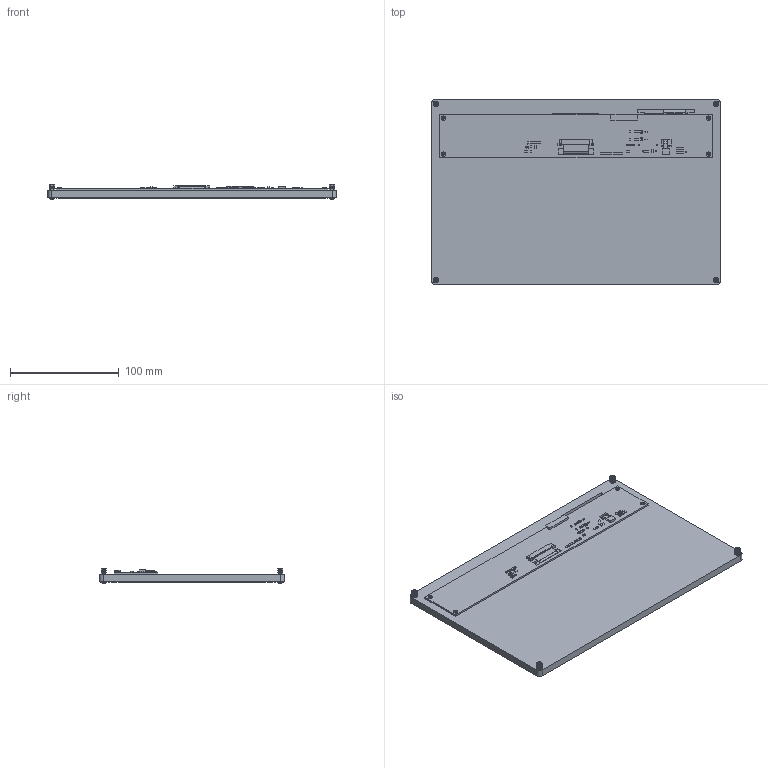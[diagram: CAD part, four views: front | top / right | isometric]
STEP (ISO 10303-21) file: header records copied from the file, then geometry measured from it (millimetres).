
FILE_DESCRIPTION((''),'2;1');
FILE_NAME('10_1INCH-HDMI-LCD-F_CASE_ASM','2025-04-24T17:34:19',('xiaojisheng'),(''),'CREO PARAMETRIC BY PTC INC, 2021063','CREO PARAMETRIC BY PTC INC, 2021063','');
FILE_SCHEMA(('CONFIG_CONTROL_DESIGN','SHAPE_APPEARANCE_LAYERS_GROUPS'));
Length unit declared in the file: millimetre
Products named in the file (99): CJ01ZJGI55-10254L; 101INCH-LCD_H-TOUCH; 101INCH-1024X600-LCD-TP-H_ASM; BOARD; EXTRUDED-988; 96286072_ASM; R21_ASM; R18_ASM; R17_ASM; R15_ASM; EXTRUDED-1487; 1483211072_ASM; EXTRUDED-1942; 1483212160_ASM; EXTRUDED-2314; 96293960_ASM; EXTRUDED-2691; 1483215152_ASM; P1_ASM; R36_ASM; R5_ASM; EXTRUDED-3142; 96286344_ASM; C38_ASM; C24_ASM; R34_ASM; R82_ASM; R75_ASM; C30_ASM; C29_ASM; EXTRUDED-3705; 1483210936_ASM; U5_ASM; R20_ASM; R19_ASM; R16_ASM; R9_ASM; R4_ASM; R1_ASM; PT1_ASM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
Assembly tree (169 placements, depth 6):
  10_1INCH-HDMI-LCD-F_CASE_ASM
    101INCH-1024X600-LCD-TP-H_ASM
      CJ01ZJGI55-10254L
      101INCH-LCD_H-TOUCH
    10_1INCH_HDMI_LCD_H_-INTERFACE_ASM
      PCB_ASM
        BOARD
        R21_ASM
          96286072_ASM
            EXTRUDED-988
        R18_ASM
          96286072_ASM
            EXTRUDED-988
        R17_ASM
          96286072_ASM
            EXTRUDED-988
        R15_ASM
          96286072_ASM
            EXTRUDED-988
        P1_ASM
          1483211072_ASM  x2
            EXTRUDED-1487
          1483212160_ASM
            EXTRUDED-1942
          96293960_ASM  x2
            EXTRUDED-2314
          1483215152_ASM
            EXTRUDED-2691
        R36_ASM
          96286072_ASM
            EXTRUDED-988
        R5_ASM
          96286072_ASM
            EXTRUDED-988
        C38_ASM
          96286344_ASM
            EXTRUDED-3142
        C24_ASM
          96286344_ASM
            EXTRUDED-3142
        R34_ASM
          96286072_ASM
            EXTRUDED-988
        R82_ASM
          96286072_ASM
            EXTRUDED-988
        R75_ASM
          96286072_ASM
            EXTRUDED-988
        C30_ASM
          96286344_ASM
            EXTRUDED-3142
        C29_ASM
          96286344_ASM
            EXTRUDED-3142
        U5_ASM
          1483210936_ASM
            EXTRUDED-3705
        R20_ASM
          96286072_ASM
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Bounding box: 265 x 170 x 13.8 mm (x, y, z)
Volume: 295215 mm3; surface area: 274275.5 mm2
Topology: 93 solids, 93 shells, 2019 faces, 5286 edges, 3478 vertices
Faces by surface type: plane 1067, cylinder 736, bspline 120, cone 48, torus 32, sphere 16
Entity records: 38904 total; most frequent: CARTESIAN_POINT 15407, DIRECTION 3802, ORIENTED_EDGE 3306, PRESENTATION_STYLE_ASSIGNMENT 1680, STYLED_ITEM 1677, CURVE_STYLE 1653, EDGE_CURVE 1653, AXIS2_PLACEMENT_3D 1367
